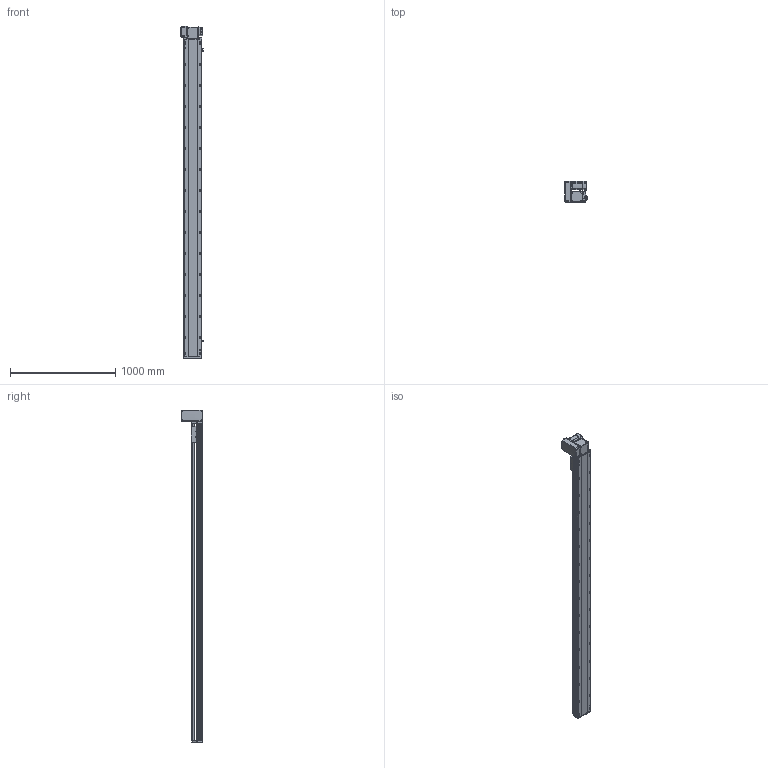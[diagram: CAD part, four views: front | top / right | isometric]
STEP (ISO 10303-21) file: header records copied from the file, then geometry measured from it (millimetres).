
FILE_DESCRIPTION (( 'STEP AP214' ), '1' );
FILE_NAME ('RTB17S-XX-2750-LW-M75-C4.STEP', '2025-12-12T01:18:45', ( '' ), ( '' ), 'SwSTEP 2.0', 'SolidWorks 2018', '' );
FILE_SCHEMA (( 'AUTOMOTIVE_DESIGN' ));
Length unit declared in the file: millimetre
Products named in the file (15): RTB17S-賑釱^RTB17S-XX-XX-LW-M75-C4; RTB22S-GY-008-M75--萇儂啣^RTB17S-LW-々湍釱蚾饜-750W_RTB17S-XX-XX-LW-M75-C4; RTB17S-XX-2750-LW-M75-C4; EE672^RTB17S-XX-XX-LW-M75-C4; RTB17S-LW-々湍釱蚾饜-750W^RTB17S-XX-XX-LW-M75-C4; RTB17S-L-014-T20-P75--々湍釱^RTB17S-LW-々湍釱蚾饜-750W_RTB17S-XX-XX-LW-M75-C4; RTB22S-GY-005P^RTB17S-LW-々湍釱蚾饜-750W_RTB17S-XX-XX-LW-M75-C4; RTB22S-GY-018P^RTB17S-LW-々湍釱蚾饜-750W_RTB17S-XX-XX-LW-M75-C4; RTB17S-L-004-賑釱^RTB17S-賑釱_RTB17S-XX-XX-LW-M75-C4; RTB17S-L-007奻裔^RTB17S-XX-XX-LW-M75-C4; RTB22S-GY-017P^RTB17S-LW-々湍釱蚾饜-750W_RTB17S-XX-XX-LW-M75-C4; RTH13-BL-012覜茼え俋离^RTB17S-賑釱_RTB17S-XX-XX-LW-M75-C4; RTB17S-L-001-耜醱啣^RTB17S-XX-XX-LW-M75-C4; 750W萇儂^RTB17S-XX-XX-LW-M75-C4; RTB17-R-011菁釱^RTB17S-XX-XX-LW-M75-C4
Assembly tree (17 placements, depth 3):
  RTB17S-XX-2750-LW-M75-C4
    RTB17-R-011菁釱^RTB17S-XX-XX-LW-M75-C4
    EE672^RTB17S-XX-XX-LW-M75-C4  x3
    RTB17S-L-001-耜醱啣^RTB17S-XX-XX-LW-M75-C4
    RTB17S-賑釱^RTB17S-XX-XX-LW-M75-C4
      RTB17S-L-004-賑釱^RTB17S-賑釱_RTB17S-XX-XX-LW-M75-C4
      RTH13-BL-012覜茼え俋离^RTB17S-賑釱_RTB17S-XX-XX-LW-M75-C4
    RTB17S-L-007奻裔^RTB17S-XX-XX-LW-M75-C4
    750W萇儂^RTB17S-XX-XX-LW-M75-C4
    RTB17S-LW-々湍釱蚾饜-750W^RTB17S-XX-XX-LW-M75-C4
      RTB17S-L-014-T20-P75--々湍釱^RTB17S-LW-々湍釱蚾饜-750W_RTB17S-XX-XX-LW-M75-C4
      RTB22S-GY-005P^RTB17S-LW-々湍釱蚾饜-750W_RTB17S-XX-XX-LW-M75-C4
      RTB22S-GY-017P^RTB17S-LW-々湍釱蚾饜-750W_RTB17S-XX-XX-LW-M75-C4  x2
      RTB22S-GY-008-M75--萇儂啣^RTB17S-LW-々湍釱蚾饜-750W_RTB17S-XX-XX-LW-M75-C4
      RTB22S-GY-018P^RTB17S-LW-々湍釱蚾饜-750W_RTB17S-XX-XX-LW-M75-C4
Bounding box: 210.4 x 201.5 x 3157.5 mm (x, y, z)
Volume: 23140667.1 mm3; surface area: 4220495.2 mm2
Topology: 17 solids, 17 shells, 2233 faces, 6268 edges, 4058 vertices
Faces by surface type: plane 988, cylinder 829, bspline 294, cone 110, sphere 8, torus 4
Entity records: 65014 total; most frequent: CARTESIAN_POINT 19332, ORIENTED_EDGE 9380, DIRECTION 8672, EDGE_CURVE 4690, AXIS2_PLACEMENT_3D 3078, VERTEX_POINT 3062, LINE 2516, VECTOR 2516
